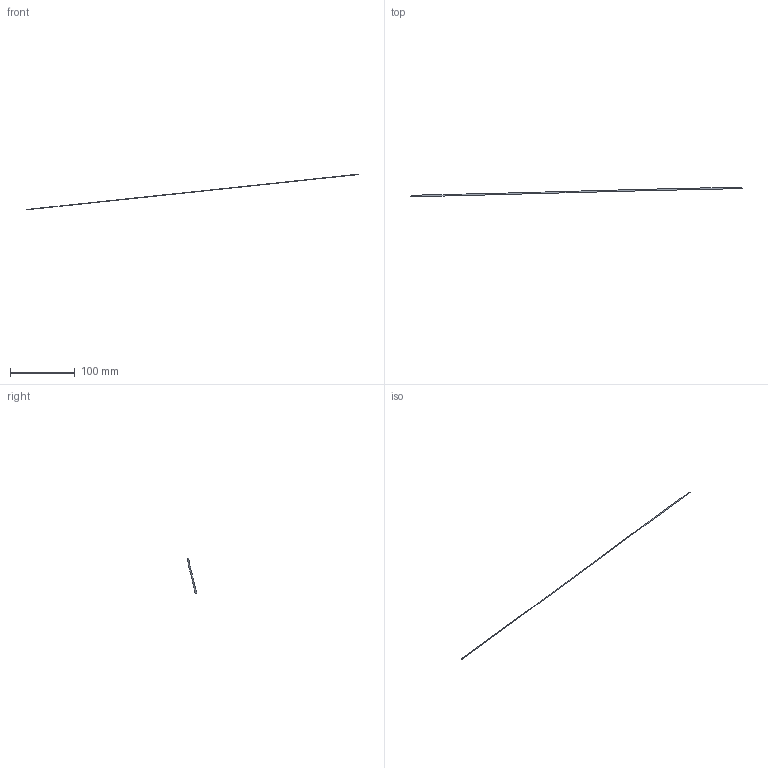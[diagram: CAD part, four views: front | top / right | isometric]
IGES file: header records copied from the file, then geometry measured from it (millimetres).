
Start section: START RECORD GO HERE
Global section: file name: v15.igs; native system: IBM CATIA IGES - CATIA SOLUTIONS V4RELEASE 1.9 REFRESH 01; preprocessor: CATIA SOLUTIONS V4RELEASE 1.9 REFRESH 01; author: cky; date: 990510.133752; units: millimetre
Bounding box: 511.45 x 14.76 x 54.7 mm (x, y, z)
Surface area: 1178.4 mm2 (no closed solid volume)
Topology: 0 solids, 0 shells, 1 faces, 19 edges, 19 vertices
Faces by surface type: extrusion 1
